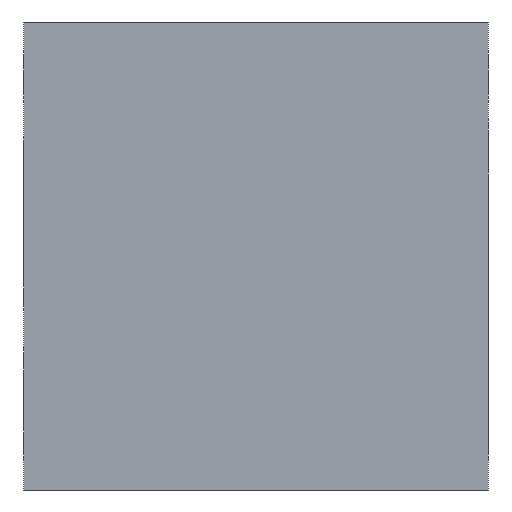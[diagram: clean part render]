
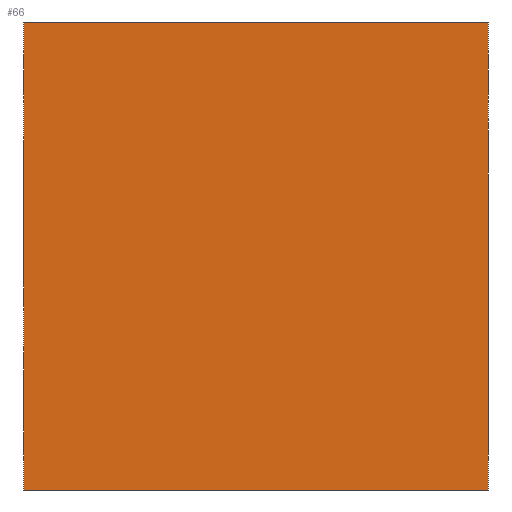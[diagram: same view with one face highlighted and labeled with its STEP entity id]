
A CAD part, left-side view. The second image highlights one B-rep face of the part: STEP entity #66.
In plain terms, the highlighted planar face has unit normal (-1, 0, 0).
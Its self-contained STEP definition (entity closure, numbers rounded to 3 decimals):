
#66 = ADVANCED_FACE ( 'NONE', ( #3706 ), #12052, .F. ) ;
#1128 = VERTEX_POINT ( 'NONE', #16254 ) ;
#1445 = EDGE_LOOP ( 'NONE', ( #3496, #9881, #6409, #9484 ) ) ;
#2058 = CARTESIAN_POINT ( 'NONE',  ( 0., 0., 60. ) ) ;
#2701 = CARTESIAN_POINT ( 'NONE',  ( 0., 59.5, 60. ) ) ;
#3496 = ORIENTED_EDGE ( 'NONE', *, *, #22110, .T. ) ;
#3706 = FACE_OUTER_BOUND ( 'NONE', #1445, .T. ) ;
#4586 = CARTESIAN_POINT ( 'NONE',  ( 0., 59.5, 0. ) ) ;
#4906 = VECTOR ( 'NONE', #18993, 1000. ) ;
#4924 = LINE ( 'NONE', #19123, #4906 ) ;
#5456 = LINE ( 'NONE', #7808, #12307 ) ;
#6055 = VECTOR ( 'NONE', #22033, 1000. ) ;
#6383 = VERTEX_POINT ( 'NONE', #2701 ) ;
#6409 = ORIENTED_EDGE ( 'NONE', *, *, #6751, .F. ) ;
#6751 = EDGE_CURVE ( 'NONE', #6383, #14696, #4924, .T. ) ;
#7808 = CARTESIAN_POINT ( 'NONE',  ( 0., 0., 0. ) ) ;
#8044 = DIRECTION ( 'NONE',  ( 0., -1., 0. ) ) ;
#8161 = CARTESIAN_POINT ( 'NONE',  ( 0., 59.5, 60. ) ) ;
#9484 = ORIENTED_EDGE ( 'NONE', *, *, #13797, .T. ) ;
#9658 = LINE ( 'NONE', #8161, #22371 ) ;
#9674 = DIRECTION ( 'NONE',  ( 0., 0., -1. ) ) ;
#9881 = ORIENTED_EDGE ( 'NONE', *, *, #12598, .F. ) ;
#11261 = CARTESIAN_POINT ( 'NONE',  ( 0., 0., 60. ) ) ;
#11291 = DIRECTION ( 'NONE',  ( 1., 0., 0. ) ) ;
#11310 = DIRECTION ( 'NONE',  ( 0., 0., -1. ) ) ;
#12052 = PLANE ( 'NONE',  #13013 ) ;
#12307 = VECTOR ( 'NONE', #8044, 1000. ) ;
#12598 = EDGE_CURVE ( 'NONE', #14696, #1128, #16441, .T. ) ;
#13013 = AXIS2_PLACEMENT_3D ( 'NONE', #11261, #11291, #11310 ) ;
#13797 = EDGE_CURVE ( 'NONE', #6383, #14196, #9658, .T. ) ;
#14196 = VERTEX_POINT ( 'NONE', #4586 ) ;
#14696 = VERTEX_POINT ( 'NONE', #2058 ) ;
#16254 = CARTESIAN_POINT ( 'NONE',  ( 0., 0., 0. ) ) ;
#16441 = LINE ( 'NONE', #21560, #6055 ) ;
#18993 = DIRECTION ( 'NONE',  ( 0., -1., 0. ) ) ;
#19123 = CARTESIAN_POINT ( 'NONE',  ( 0., 0., 60. ) ) ;
#21560 = CARTESIAN_POINT ( 'NONE',  ( 0., 0., 60. ) ) ;
#22033 = DIRECTION ( 'NONE',  ( 0., 0., -1. ) ) ;
#22110 = EDGE_CURVE ( 'NONE', #14196, #1128, #5456, .T. ) ;
#22371 = VECTOR ( 'NONE', #9674, 1000. ) ;
